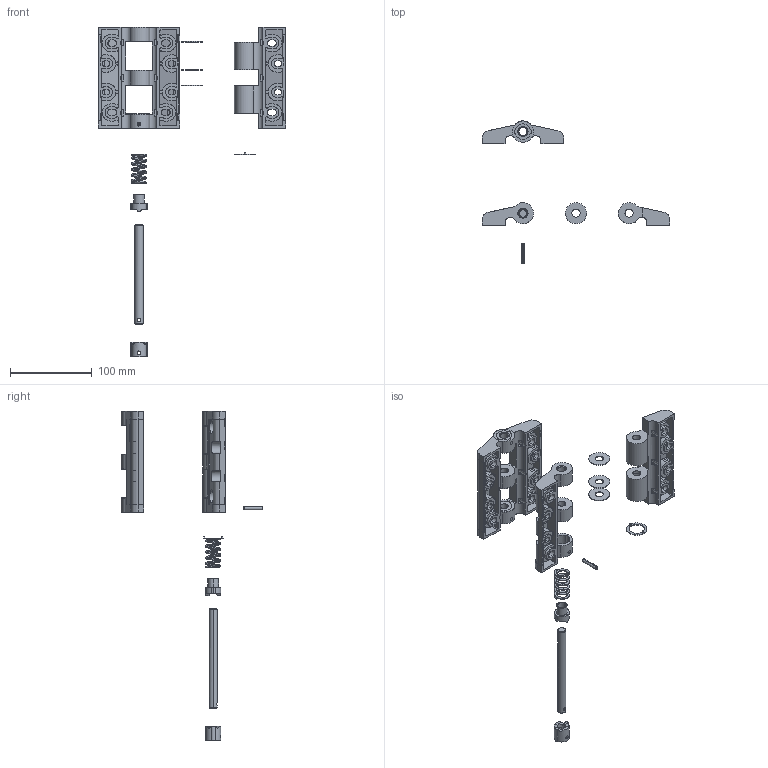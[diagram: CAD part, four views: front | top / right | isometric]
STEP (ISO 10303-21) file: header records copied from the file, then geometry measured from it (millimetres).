
FILE_DESCRIPTION (( 'STEP AP203' ), '1' );
FILE_NAME ('SK2-003-6.STEP', '2018-11-01T05:14:04', ( 'admin' ), ( 'Microsoft' ), 'SwSTEP 2.0', 'SolidWorks 2015', '' );
FILE_SCHEMA (( 'CONFIG_CONTROL_DESIGN' ));
Length unit declared in the file: millimetre
Products named in the file (11): SK2-003-6-F7; SK2-003-6-F8; SK2-003-6-F9; SK2-003-6-F1; spring pin slotted heavy duty1 gb_GB_PARALLEL_PINS_TYPE6 4X24; SK2-003-6-F2; SK2-003-6; SK2-003-6-F3; SK2-003-6-F4; SK2-003-6-F5; SK2-003-6-F6
Assembly tree (13 placements, depth 2):
  SK2-003-6
    SK2-003-6-F1
    SK2-003-6-F2
    SK2-003-6-F3  x2
    SK2-003-6-F4
    SK2-003-6-F5
    SK2-003-6-F6
    SK2-003-6-F7
    SK2-003-6-F8  x3
    SK2-003-6-F9
    spring pin slotted heavy duty1 gb_GB_PARALLEL_PINS_TYPE6 4X24
Bounding box: 230 x 174 x 404 mm (x, y, z)
Volume: 269044.3 mm3; surface area: 150266.1 mm2
Topology: 15 solids, 15 shells, 1299 faces, 3678 edges, 2419 vertices
Faces by surface type: plane 749, cylinder 473, bspline 60, cone 17
Entity records: 41474 total; most frequent: CARTESIAN_POINT 16763, ORIENTED_EDGE 5124, DIRECTION 4700, EDGE_CURVE 2562, LINE 1696, VECTOR 1696, VERTEX_POINT 1689, AXIS2_PLACEMENT_3D 1502
